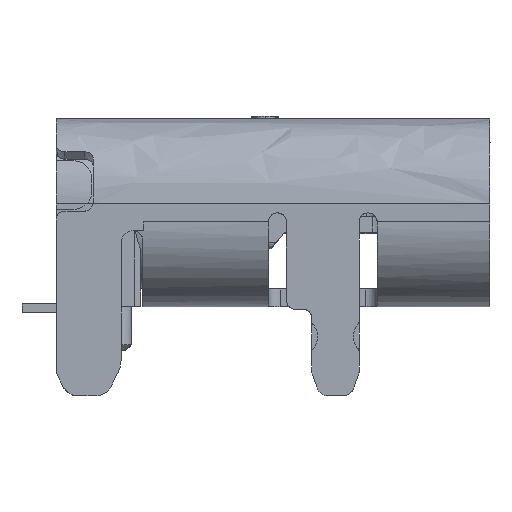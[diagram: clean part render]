
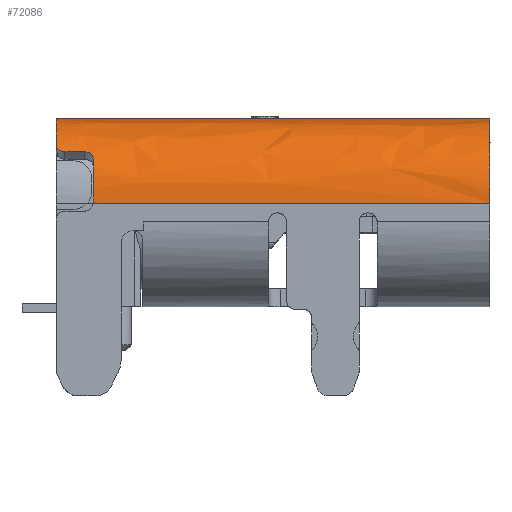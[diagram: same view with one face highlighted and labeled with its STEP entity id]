
A CAD part, left-side view. The second image highlights one B-rep face of the part: STEP entity #72086.
In plain terms, the highlighted free-form (B-spline) face has degree [1, 3] with [2, 4] control points.
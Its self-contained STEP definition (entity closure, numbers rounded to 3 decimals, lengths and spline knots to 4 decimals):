
#1777 = VERTEX_POINT ( 'NONE', #11959 ) ;
#2114 = CARTESIAN_POINT ( 'NONE',  ( -4.0639, 7.275, 3.7283 ) ) ;
#2125 = CARTESIAN_POINT ( 'NONE',  ( -4.47, 6.653, 2.73 ) ) ;
#3110 =( BOUNDED_CURVE ( )  B_SPLINE_CURVE ( 3, ( #112893, #30891, #104513, #67460 ),
 .UNSPECIFIED., .F., .F. ) 
 B_SPLINE_CURVE_WITH_KNOTS ( ( 4, 4 ),
 ( 0., 0.7981 ),
 .UNSPECIFIED. ) 
 CURVE ( )  GEOMETRIC_REPRESENTATION_ITEM ( )  RATIONAL_B_SPLINE_CURVE ( ( 1., 0.948, 0.948, 1. ) ) 
 REPRESENTATION_ITEM ( '' )  );
#4114 = CARTESIAN_POINT ( 'NONE',  ( -4.1673, 7.125, 3.6098 ) ) ;
#4711 = CARTESIAN_POINT ( 'NONE',  ( -4.0639, 7.275, 3.7283 ) ) ;
#5293 = CARTESIAN_POINT ( 'NONE',  ( -4.1188, 7.2601, 3.6691 ) ) ;
#7004 = ORIENTED_EDGE ( 'NONE', *, *, #16223, .F. ) ;
#9984 = EDGE_CURVE ( 'NONE', #23793, #111809, #104769, .T. ) ;
#10124 = CARTESIAN_POINT ( 'NONE',  ( -3.1344, -0.025, 4.16 ) ) ;
#10710 = CARTESIAN_POINT ( 'NONE',  ( -3.9848, -0.025, 3.8074 ) ) ;
#11075 = CARTESIAN_POINT ( 'NONE',  ( -4.1673, 6.8, 3.6098 ) ) ;
#11314 = CARTESIAN_POINT ( 'NONE',  ( -4.1673, 6.8, 3.6098 ) ) ;
#11948 = CARTESIAN_POINT ( 'NONE',  ( -3.8777, -0.025, 4.16 ) ) ;
#11959 = CARTESIAN_POINT ( 'NONE',  ( -3.04, 7.275, 4.16 ) ) ;
#12258 = CARTESIAN_POINT ( 'NONE',  ( -4.4699, 6.65, 2.7499 ) ) ;
#12542 = CARTESIAN_POINT ( 'NONE',  ( -3.04, 7.3188, 4.16 ) ) ;
#13629 = CARTESIAN_POINT ( 'NONE',  ( -4.1673, 6.7604, 3.6098 ) ) ;
#16223 = EDGE_CURVE ( 'NONE', #40065, #110443, #86464, .T. ) ;
#17774 = CARTESIAN_POINT ( 'NONE',  ( -4.2549, 6.65, 3.4843 ) ) ;
#18854 = ORIENTED_EDGE ( 'NONE', *, *, #21512, .F. ) ;
#19710 = CARTESIAN_POINT ( 'NONE',  ( -3.8777, 7.3188, 4.16 ) ) ;
#21512 = EDGE_CURVE ( 'NONE', #30568, #23793, #61272, .T. ) ;
#22901 = ORIENTED_EDGE ( 'NONE', *, *, #101331, .F. ) ;
#23394 = B_SPLINE_CURVE_WITH_KNOTS ( 'NONE', 1,
 ( #50707, #87230 ),
 .UNSPECIFIED., .F., .F.,
 ( 2, 2 ),
 ( 0., 1.0034 ),
 .UNSPECIFIED. ) ;
#23793 = VERTEX_POINT ( 'NONE', #112333 ) ;
#23839 =( BOUNDED_SURFACE ( )  B_SPLINE_SURFACE ( 1, 3, ( 
 ( #12542, #19710, #92724, #93901 ),
 ( #39997, #11948, #48387, #84904 ) ),
 .UNSPECIFIED., .F., .F., .F. ) 
 B_SPLINE_SURFACE_WITH_KNOTS ( ( 2, 2 ),
 ( 4, 4 ),
 ( 0.0134, 0.9841 ),
 ( 0., 1. ),
 .UNSPECIFIED. ) 
 GEOMETRIC_REPRESENTATION_ITEM ( )  RATIONAL_B_SPLINE_SURFACE ( (
 ( 1., 0.805, 0.805, 1.),
 ( 1., 0.805, 0.805, 1.) ) ) 
 REPRESENTATION_ITEM ( '' )  SURFACE ( )  );
#26820 = CARTESIAN_POINT ( 'NONE',  ( -4.1827, -0.025, 3.6097 ) ) ;
#27402 = CARTESIAN_POINT ( 'NONE',  ( -3.5007, -0.025, 4.087 ) ) ;
#30568 = VERTEX_POINT ( 'NONE', #49338 ) ;
#30891 = CARTESIAN_POINT ( 'NONE',  ( -3.4309, 7.275, 4.16 ) ) ;
#31147 = EDGE_CURVE ( 'NONE', #55735, #116324, #98119, .T. ) ;
#35784 = CARTESIAN_POINT ( 'NONE',  ( -3.6738, -0.025, 4.0153 ) ) ;
#37053 = ORIENTED_EDGE ( 'NONE', *, *, #31147, .F. ) ;
#37991 = CARTESIAN_POINT ( 'NONE',  ( -4.47, -0.025, 2.73 ) ) ;
#39906 = CARTESIAN_POINT ( 'NONE',  ( -4.2549, 6.65, 3.4843 ) ) ;
#39997 = CARTESIAN_POINT ( 'NONE',  ( -3.04, -0.025, 4.16 ) ) ;
#40065 = VERTEX_POINT ( 'NONE', #109652 ) ;
#40541 = CARTESIAN_POINT ( 'NONE',  ( -4.1673, 7.1653, 3.6097 ) ) ;
#41897 = ORIENTED_EDGE ( 'NONE', *, *, #44409, .T. ) ;
#42315 = CARTESIAN_POINT ( 'NONE',  ( -4.1566, 7.2051, 3.6239 ) ) ;
#44409 = EDGE_CURVE ( 'NONE', #1777, #110443, #3110, .T. ) ;
#45553 = ORIENTED_EDGE ( 'NONE', *, *, #69898, .T. ) ;
#46338 = CARTESIAN_POINT ( 'NONE',  ( -4.47, 6.651, 2.7399 ) ) ;
#46436 = CARTESIAN_POINT ( 'NONE',  ( -4.4697, 6.65, 2.76 ) ) ;
#46904 = EDGE_CURVE ( 'NONE', #116324, #30568, #102870, .T. ) ;
#48387 = CARTESIAN_POINT ( 'NONE',  ( -4.47, -0.025, 3.5677 ) ) ;
#49338 = CARTESIAN_POINT ( 'NONE',  ( -4.47, 6.653, 2.73 ) ) ;
#50665 = CARTESIAN_POINT ( 'NONE',  ( -4.178, 6.7212, 3.5964 ) ) ;
#50707 = CARTESIAN_POINT ( 'NONE',  ( -3.04, -0.025, 4.16 ) ) ;
#52819 = CARTESIAN_POINT ( 'NONE',  ( -4.2549, 6.65, 3.4843 ) ) ;
#53141 = ORIENTED_EDGE ( 'NONE', *, *, #9984, .F. ) ;
#54343 = CARTESIAN_POINT ( 'NONE',  ( -4.4321, -0.025, 3.1065 ) ) ;
#55735 = VERTEX_POINT ( 'NONE', #75938 ) ;
#56020 = B_SPLINE_CURVE_WITH_KNOTS ( 'NONE', 1,
 ( #11075, #110353 ),
 .UNSPECIFIED., .F., .F.,
 ( 2, 2 ),
 ( 0., 1. ),
 .UNSPECIFIED. ) ;
#56100 = CARTESIAN_POINT ( 'NONE',  ( -3.9113, -0.025, 3.8678 ) ) ;
#57352 = FACE_OUTER_BOUND ( 'NONE', #100949, .T. ) ;
#58502 = VERTEX_POINT ( 'NONE', #11314 ) ;
#61272 = B_SPLINE_CURVE_WITH_KNOTS ( 'NONE', 3,
 ( #2125, #46338, #12258, #93626 ),
 .UNSPECIFIED., .F., .F.,
 ( 4, 4 ),
 ( 0., 1. ),
 .UNSPECIFIED. ) ;
#63335 = CARTESIAN_POINT ( 'NONE',  ( -4.2893, -0.025, 3.4503 ) ) ;
#63934 = CARTESIAN_POINT ( 'NONE',  ( -4.47, -0.025, 2.9188 ) ) ;
#65120 = CARTESIAN_POINT ( 'NONE',  ( -3.2273, -0.025, 4.1507 ) ) ;
#67460 = CARTESIAN_POINT ( 'NONE',  ( -4.0639, 7.275, 3.7283 ) ) ;
#67506 = CARTESIAN_POINT ( 'NONE',  ( -4.0921, 7.275, 3.6995 ) ) ;
#69898 = EDGE_CURVE ( 'NONE', #55735, #1777, #23394, .T. ) ;
#71397 = ORIENTED_EDGE ( 'NONE', *, *, #46904, .F. ) ;
#72086 = ADVANCED_FACE ( 'NONE', ( #57352 ), #23839, .F. ) ;
#72218 = CARTESIAN_POINT ( 'NONE',  ( -4.3896, 6.65, 3.2679 ) ) ;
#74103 = CARTESIAN_POINT ( 'NONE',  ( -3.04, -0.025, 4.16 ) ) ;
#74273 = ORIENTED_EDGE ( 'NONE', *, *, #107039, .F. ) ;
#74736 = CARTESIAN_POINT ( 'NONE',  ( -4.47, 6.653, 2.73 ) ) ;
#75849 = CARTESIAN_POINT ( 'NONE',  ( -4.234, 6.65, 3.518 ) ) ;
#75938 = CARTESIAN_POINT ( 'NONE',  ( -3.04, -0.025, 4.16 ) ) ;
#81888 = CARTESIAN_POINT ( 'NONE',  ( -4.47, -0.025, 2.73 ) ) ;
#82944 = CARTESIAN_POINT ( 'NONE',  ( -4.4647, 6.65, 3.0149 ) ) ;
#84818 = CARTESIAN_POINT ( 'NONE',  ( -4.2116, 6.666, 3.5505 ) ) ;
#84904 = CARTESIAN_POINT ( 'NONE',  ( -4.47, -0.025, 2.73 ) ) ;
#86464 = B_SPLINE_CURVE_WITH_KNOTS ( 'NONE', 3,
 ( #4114, #40541, #42315, #5293, #67506, #4711 ),
 .UNSPECIFIED., .F., .F.,
 ( 4, 2, 4 ),
 ( 0., 0.5, 1. ),
 .UNSPECIFIED. ) ;
#86980 = B_SPLINE_CURVE_WITH_KNOTS ( 'NONE', 3,
 ( #39906, #75849, #84818, #50665, #13629, #105118 ),
 .UNSPECIFIED., .F., .F.,
 ( 4, 2, 4 ),
 ( 0., 0.5, 1. ),
 .UNSPECIFIED. ) ;
#87230 = CARTESIAN_POINT ( 'NONE',  ( -3.04, 7.275, 4.16 ) ) ;
#92724 = CARTESIAN_POINT ( 'NONE',  ( -4.47, 7.3188, 3.5677 ) ) ;
#93626 = CARTESIAN_POINT ( 'NONE',  ( -4.4697, 6.65, 2.76 ) ) ;
#93901 = CARTESIAN_POINT ( 'NONE',  ( -4.47, 7.3188, 2.73 ) ) ;
#98119 = B_SPLINE_CURVE_WITH_KNOTS ( 'NONE', 3,
 ( #74103, #10124, #65120, #101609, #27402, #35784, #108806, #56100, #10710, #26820, #63335, #54343, #63934, #81888 ),
 .UNSPECIFIED., .F., .F.,
 ( 4, 2, 2, 2, 2, 2, 4 ),
 ( 0., 0.0003, 0.0006, 0.0008, 0.0011, 0.0017, 0.0022 ),
 .UNSPECIFIED. ) ;
#100949 = EDGE_LOOP ( 'NONE', ( #53141, #18854, #71397, #37053, #45553, #41897, #7004, #74273, #22901 ) ) ;
#101331 = EDGE_CURVE ( 'NONE', #111809, #58502, #86980, .T. ) ;
#101609 = CARTESIAN_POINT ( 'NONE',  ( -3.4099, -0.025, 4.1145 ) ) ;
#102234 = CARTESIAN_POINT ( 'NONE',  ( -4.47, -0.025, 2.73 ) ) ;
#102870 = B_SPLINE_CURVE_WITH_KNOTS ( 'NONE', 1,
 ( #102234, #74736 ),
 .UNSPECIFIED., .F., .F.,
 ( 2, 2 ),
 ( -0.0038, 1. ),
 .UNSPECIFIED. ) ;
#104513 = CARTESIAN_POINT ( 'NONE',  ( -3.791, 7.275, 4.0081 ) ) ;
#104769 = B_SPLINE_CURVE_WITH_KNOTS ( 'NONE', 3,
 ( #46436, #82944, #72218, #17774 ),
 .UNSPECIFIED., .F., .F.,
 ( 4, 4 ),
 ( 0., 0.5347 ),
 .UNSPECIFIED. ) ;
#105118 = CARTESIAN_POINT ( 'NONE',  ( -4.1673, 6.8, 3.6098 ) ) ;
#107039 = EDGE_CURVE ( 'NONE', #58502, #40065, #56020, .T. ) ;
#108806 = CARTESIAN_POINT ( 'NONE',  ( -3.7559, -0.025, 3.9714 ) ) ;
#109652 = CARTESIAN_POINT ( 'NONE',  ( -4.1673, 7.125, 3.6098 ) ) ;
#110353 = CARTESIAN_POINT ( 'NONE',  ( -4.1673, 7.125, 3.6098 ) ) ;
#110443 = VERTEX_POINT ( 'NONE', #2114 ) ;
#111809 = VERTEX_POINT ( 'NONE', #52819 ) ;
#112333 = CARTESIAN_POINT ( 'NONE',  ( -4.4697, 6.65, 2.76 ) ) ;
#112893 = CARTESIAN_POINT ( 'NONE',  ( -3.04, 7.275, 4.16 ) ) ;
#116324 = VERTEX_POINT ( 'NONE', #37991 ) ;
